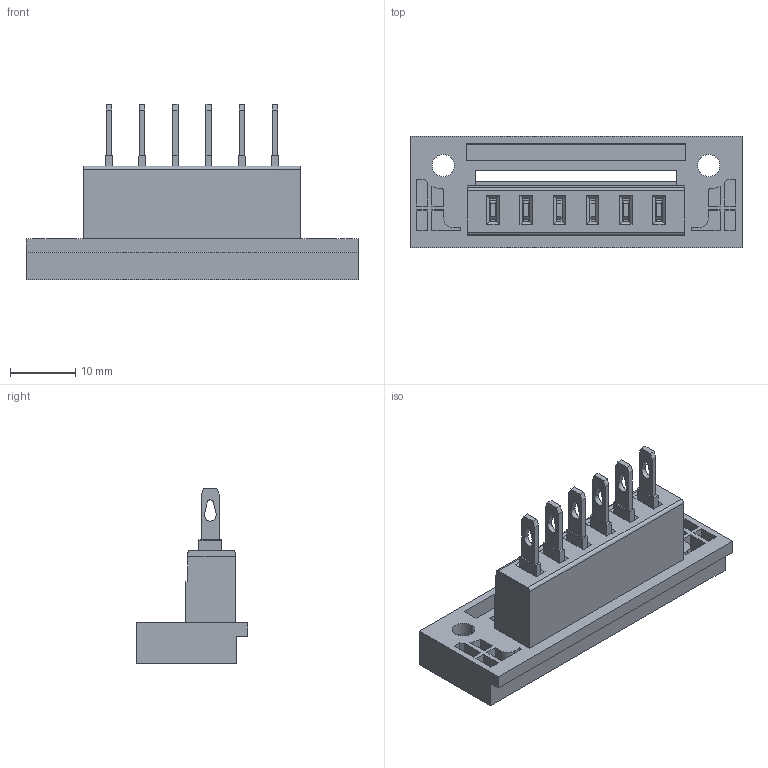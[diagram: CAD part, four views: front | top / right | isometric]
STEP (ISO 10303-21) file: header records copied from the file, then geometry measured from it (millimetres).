
FILE_DESCRIPTION(('Open CASCADE Model'),'2;1');
FILE_NAME('Open CASCADE Shape Model','2022-10-31T17:28:14',('Author'),( 'Open CASCADE'),'Open CASCADE STEP processor 6.5','Open CASCADE 6.5' ,'Unknown');
FILE_SCHEMA(('AUTOMOTIVE_DESIGN { 1 0 10303 214 1 1 1 1 }'));
Length unit declared in the file: millimetre
Products named in the file (814): CADSOFTTOOLS 1; CADSOFTTOOLS 1.1; CADSOFTTOOLS 1.2; CADSOFTTOOLS 1.3; CADSOFTTOOLS 1.4; CADSOFTTOOLS 1.5; CADSOFTTOOLS 1.6; CADSOFTTOOLS 1.7; CADSOFTTOOLS 1.8; CADSOFTTOOLS 1.9; CADSOFTTOOLS 1.10; CADSOFTTOOLS 1.11; CADSOFTTOOLS 1.12; CADSOFTTOOLS 1.13; CADSOFTTOOLS 1.14; CADSOFTTOOLS 1.15; CADSOFTTOOLS 1.16; CADSOFTTOOLS 1.17; CADSOFTTOOLS 1.18; CADSOFTTOOLS 1.19; CADSOFTTOOLS 1.20; CADSOFTTOOLS 1.21; CADSOFTTOOLS 1.22; CADSOFTTOOLS 1.23; CADSOFTTOOLS 1.24; CADSOFTTOOLS 1.25; CADSOFTTOOLS 1.26; CADSOFTTOOLS 1.27; CADSOFTTOOLS 1.28; CADSOFTTOOLS 1.29; CADSOFTTOOLS 1.30; CADSOFTTOOLS 1.31; CADSOFTTOOLS 1.32; CADSOFTTOOLS 1.33; CADSOFTTOOLS 1.34; CADSOFTTOOLS 1.35; CADSOFTTOOLS 1.36; CADSOFTTOOLS 1.37; CADSOFTTOOLS 1.38; CADSOFTTOOLS 1.39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
Assembly tree (813 placements, depth 2):
  CADSOFTTOOLS 1
    CADSOFTTOOLS 1.1
    CADSOFTTOOLS 1.2
    CADSOFTTOOLS 1.3
    CADSOFTTOOLS 1.4
    CADSOFTTOOLS 1.5
    CADSOFTTOOLS 1.6
    CADSOFTTOOLS 1.7
    CADSOFTTOOLS 1.8
    CADSOFTTOOLS 1.9
    CADSOFTTOOLS 1.10
    CADSOFTTOOLS 1.11
    CADSOFTTOOLS 1.12
    CADSOFTTOOLS 1.13
    CADSOFTTOOLS 1.14
    CADSOFTTOOLS 1.15
    CADSOFTTOOLS 1.16
    CADSOFTTOOLS 1.17
    CADSOFTTOOLS 1.18
    CADSOFTTOOLS 1.19
    CADSOFTTOOLS 1.20
    CADSOFTTOOLS 1.21
    CADSOFTTOOLS 1.22
    CADSOFTTOOLS 1.23
    CADSOFTTOOLS 1.24
    CADSOFTTOOLS 1.25
    CADSOFTTOOLS 1.26
    CADSOFTTOOLS 1.27
    CADSOFTTOOLS 1.28
    CADSOFTTOOLS 1.29
    CADSOFTTOOLS 1.30
    CADSOFTTOOLS 1.31
    CADSOFTTOOLS 1.32
    CADSOFTTOOLS 1.33
    CADSOFTTOOLS 1.34
    CADSOFTTOOLS 1.35
    CADSOFTTOOLS 1.36
    CADSOFTTOOLS 1.37
    CADSOFTTOOLS 1.38
    CADSOFTTOOLS 1.39
    CADSOFTTOOLS 1.40
    CADSOFTTOOLS 1.41
    CADSOFTTOOLS 1.42
    CADSOFTTOOLS 1.43
    CADSOFTTOOLS 1.44
    CADSOFTTOOLS 1.45
    CADSOFTTOOLS 1.46
    CADSOFTTOOLS 1.47
    CADSOFTTOOLS 1.48
    CADSOFTTOOLS 1.49
    CADSOFTTOOLS 1.50
    CADSOFTTOOLS 1.51
    CADSOFTTOOLS 1.52
    CADSOFTTOOLS 1.53
    CADSOFTTOOLS 1.54
    CADSOFTTOOLS 1.55
    CADSOFTTOOLS 1.56
    CADSOFTTOOLS 1.57
    CADSOFTTOOLS 1.58
    CADSOFTTOOLS 1.59
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Bounding box: 50.8 x 17.1 x 26.9 mm (x, y, z)
Surface area: 7128 mm2 (no closed solid volume)
Topology: 0 solids, 813 shells, 813 faces, 4910 edges, 4910 vertices
Faces by surface type: plane 689, cylinder 92, cone 16, bspline 16
Entity records: 141074 total; most frequent: CARTESIAN_POINT 65112, DIRECTION 11533, LINE 6252, VECTOR 6252, ORIENTED_EDGE 4910, EDGE_CURVE 4910, VERTEX_POINT 4910, SURFACE_CURVE 4910
